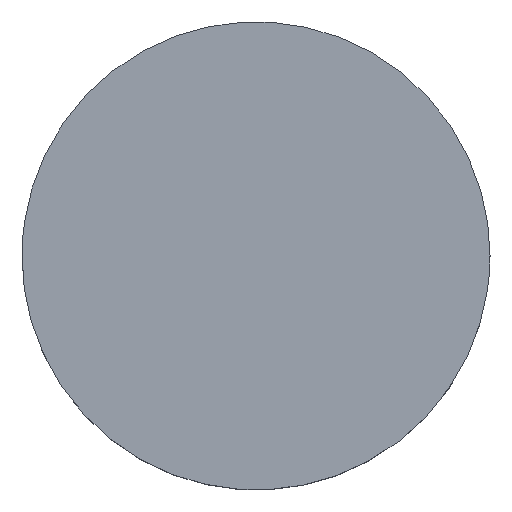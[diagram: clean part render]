
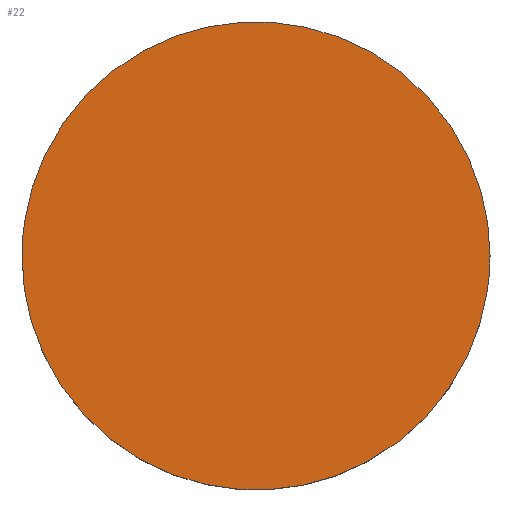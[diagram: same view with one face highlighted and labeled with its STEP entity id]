
A CAD part, top view. The second image highlights one B-rep face of the part: STEP entity #22.
In plain terms, the highlighted planar face has unit normal (0, 0, 1).
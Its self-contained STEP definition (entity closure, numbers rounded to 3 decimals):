
#22=ADVANCED_FACE('',(#36),#184,.T.);
#36=FACE_OUTER_BOUND('',#52,.T.);
#52=EDGE_LOOP('',(#79,#80));
#79=ORIENTED_EDGE('',*,*,#118,.T.);
#80=ORIENTED_EDGE('',*,*,#131,.T.);
#118=EDGE_CURVE('',#168,#176,#144,.T.);
#131=EDGE_CURVE('',#176,#168,#157,.T.);
#144=(
BOUNDED_CURVE()
B_SPLINE_CURVE(2,(#646,#647,#648,#649,#650),.UNSPECIFIED.,.F.,.F.)
B_SPLINE_CURVE_WITH_KNOTS((3,2,3),(0.,31.416,62.832),
 .UNSPECIFIED.)
CURVE()
GEOMETRIC_REPRESENTATION_ITEM()
RATIONAL_B_SPLINE_CURVE((1.,0.707,1.,0.707,1.))
REPRESENTATION_ITEM('')
);
#157=(
BOUNDED_CURVE()
B_SPLINE_CURVE(2,(#784,#785,#786,#787,#788),.UNSPECIFIED.,.F.,.F.)
B_SPLINE_CURVE_WITH_KNOTS((3,2,3),(62.832,94.248,125.664),
 .UNSPECIFIED.)
CURVE()
GEOMETRIC_REPRESENTATION_ITEM()
RATIONAL_B_SPLINE_CURVE((1.,0.707,1.,0.707,1.))
REPRESENTATION_ITEM('')
);
#168=VERTEX_POINT('',#614);
#176=VERTEX_POINT('',#622);
#184=PLANE('',#218);
#218=AXIS2_PLACEMENT_3D('',#252,#225,$);
#225=DIRECTION('',(0.,0.,1.));
#252=CARTESIAN_POINT('',(-25.,-25.,30.));
#614=CARTESIAN_POINT('',(20.,0.,30.));
#622=CARTESIAN_POINT('',(-20.,0.,30.));
#646=CARTESIAN_POINT('',(20.,0.,30.));
#647=CARTESIAN_POINT('',(20.,20.,30.));
#648=CARTESIAN_POINT('',(0.,20.,30.));
#649=CARTESIAN_POINT('',(-20.,20.,30.));
#650=CARTESIAN_POINT('',(-20.,0.,30.));
#784=CARTESIAN_POINT('',(-20.,0.,30.));
#785=CARTESIAN_POINT('',(-20.,-20.,30.));
#786=CARTESIAN_POINT('',(0.,-20.,30.));
#787=CARTESIAN_POINT('',(20.,-20.,30.));
#788=CARTESIAN_POINT('',(20.,0.,30.));
